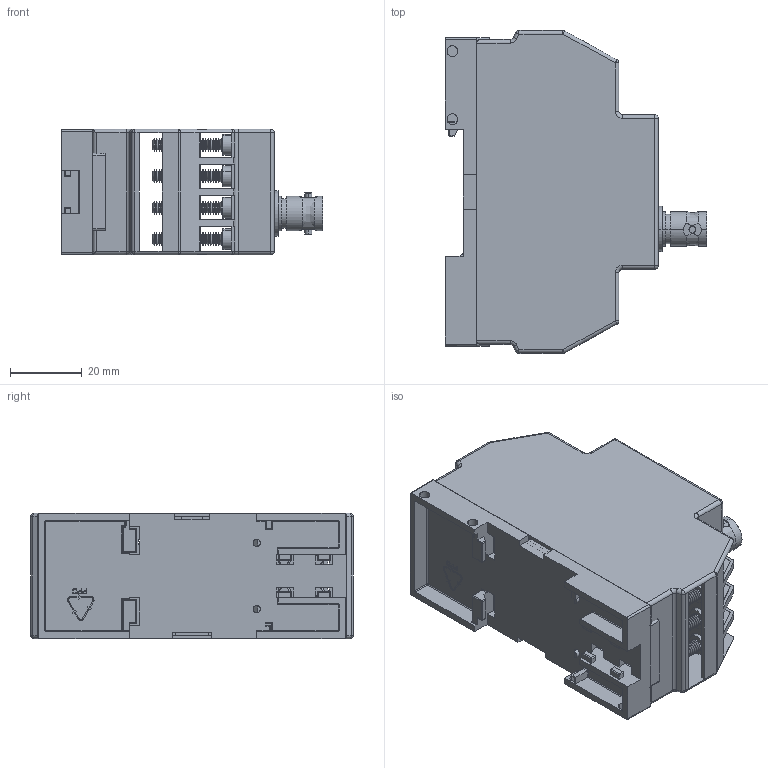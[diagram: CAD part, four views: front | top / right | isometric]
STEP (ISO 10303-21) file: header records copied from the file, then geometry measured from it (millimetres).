
FILE_DESCRIPTION (( 'STEP AP214' ), '1' );
FILE_NAME ('KD2306.STEP', '2010-03-05T19:59:38', ( 'tom edwards' ), ( 'Tom J. Edwards' ), 'SwSTEP 2.0', 'SolidWorks 2008', '' );
FILE_SCHEMA (( 'AUTOMOTIVE_DESIGN' ));
Length unit declared in the file: millimetre
Products named in the file (6): KU4002B Altech; SW3dPS-3299-w_z_3299Z; 350_base_copy; SW3dPS-Twin BNC 31-223 Ampphenol_Imported; CR-FIMS 0.138-32x0.375x0.375-S_CR-FIMS 0.138-32x0.375x0.375-S; KD2306
Assembly tree (25 placements, depth 2):
  KD2306
    350_base_copy
    CR-FIMS 0.138-32x0.375x0.375-S_CR-FIMS 0.138-32x0.375x0.375-S  x16
    SW3dPS-3299-w_z_3299Z  x6
    SW3dPS-Twin BNC 31-223 Ampphenol_Imported
    KU4002B Altech
Bounding box: 72.9 x 90 x 35 mm (x, y, z)
Volume: 31211 mm3; surface area: 47495.8 mm2
Topology: 25 solids, 25 shells, 2534 faces, 6680 edges, 4182 vertices
Faces by surface type: plane 879, cone 818, cylinder 740, sphere 69, bspline 19, torus 9
Entity records: 37527 total; most frequent: CARTESIAN_POINT 7241, ORIENTED_EDGE 5302, DIRECTION 5047, EDGE_CURVE 2651, VECTOR 1835, LINE 1835, VERTEX_POINT 1674, AXIS2_PLACEMENT_3D 1606
